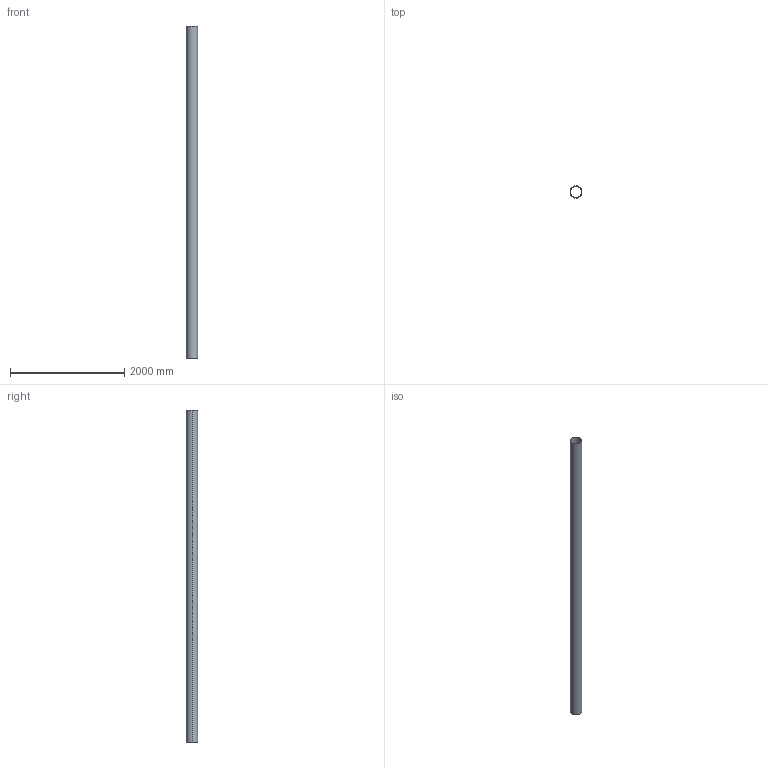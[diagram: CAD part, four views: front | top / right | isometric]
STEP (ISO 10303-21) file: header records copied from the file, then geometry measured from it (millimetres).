
FILE_DESCRIPTION((''),'2;1');
FILE_NAME('2012A06200','2017-05-15T',('Administrator'),(''),'PRO/ENGINEER BY PARAMETRIC TECHNOLOGY CORPORATION, 2009360','PRO/ENGINEER BY PARAMETRIC TECHNOLOGY CORPORATION, 2009360','');
FILE_SCHEMA(('AUTOMOTIVE_DESIGN_CC2 { 1 2 10303 214 -1 1 5 2 }'));
Length unit declared in the file: millimetre
Products named in the file (1): 2012A06200
Bounding box: 204.5 x 204.5 x 5800 mm (x, y, z)
Volume: 11014738 mm3; surface area: 7346956.9 mm2
Topology: 1 solids, 1 shells, 6 faces, 12 edges, 8 vertices
Faces by surface type: cylinder 4, plane 2
Entity records: 235 total; most frequent: DIRECTION 32, CARTESIAN_POINT 26, ORIENTED_EDGE 24, AXIS2_PLACEMENT_3D 14, PRESENTATION_STYLE_ASSIGNMENT 13, STYLED_ITEM 13, CURVE_STYLE 12, COLOUR_RGB 12
